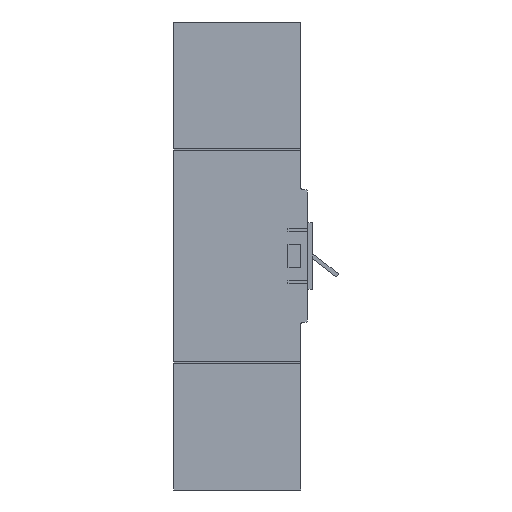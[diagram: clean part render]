
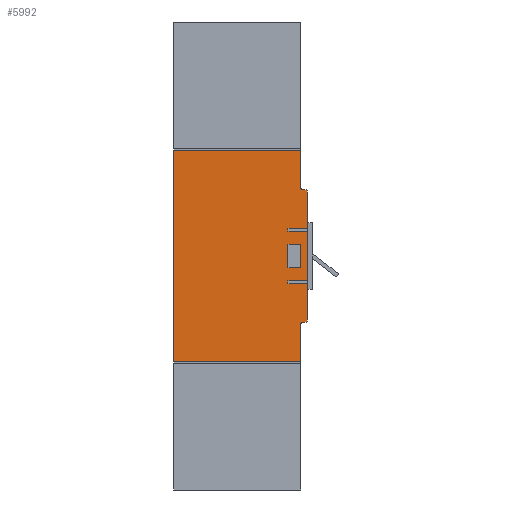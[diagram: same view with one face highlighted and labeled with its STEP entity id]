
A CAD part, left-side view. The second image highlights one B-rep face of the part: STEP entity #5992.
In plain terms, the highlighted planar face has unit normal (-1, 0, 0).
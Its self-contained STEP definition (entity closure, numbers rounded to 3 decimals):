
#169=CIRCLE('',#6319,1.);
#170=CIRCLE('',#6320,1.);
#171=CIRCLE('',#6321,1.);
#172=CIRCLE('',#6322,1.);
#315=FACE_BOUND('',#995,.T.);
#653=FACE_OUTER_BOUND('',#994,.T.);
#994=EDGE_LOOP('',(#5293,#5294,#5295,#5296,#5297,#5298,#5299,#5300,#5301,
#5302,#5303,#5304,#5305,#5306,#5307,#5308,#5309,#5310,#5311,#5312));
#995=EDGE_LOOP('',(#5313,#5314,#5315,#5316));
#1020=LINE('',#7701,#1689);
#1024=LINE('',#7709,#1693);
#1027=LINE('',#7715,#1696);
#1031=LINE('',#7724,#1700);
#1035=LINE('',#7732,#1704);
#1038=LINE('',#7738,#1707);
#1042=LINE('',#7747,#1711);
#1046=LINE('',#7755,#1715);
#1049=LINE('',#7761,#1718);
#1052=LINE('',#7766,#1721);
#1054=LINE('',#7771,#1723);
#1066=LINE('',#7794,#1735);
#1067=LINE('',#7795,#1736);
#1271=LINE('',#8455,#1940);
#1643=LINE('',#10154,#2312);
#1650=LINE('',#10168,#2319);
#1655=LINE('',#10188,#2324);
#1656=LINE('',#10191,#2325);
#1657=LINE('',#10193,#2326);
#1658=LINE('',#10197,#2327);
#1689=VECTOR('',#6358,15.);
#1693=VECTOR('',#6364,2.);
#1696=VECTOR('',#6369,15.);
#1700=VECTOR('',#6377,15.);
#1704=VECTOR('',#6383,2.);
#1707=VECTOR('',#6388,15.);
#1711=VECTOR('',#6396,10.);
#1715=VECTOR('',#6402,18.4);
#1718=VECTOR('',#6407,10.);
#1721=VECTOR('',#6412,18.4);
#1723=VECTOR('',#6418,28.8);
#1735=VECTOR('',#6430,28.8);
#1736=VECTOR('',#6431,38.4);
#1940=VECTOR('',#6719,163.);
#2312=VECTOR('',#7559,98.);
#2319=VECTOR('',#7576,98.);
#2324=VECTOR('',#7595,3.);
#2325=VECTOR('',#7598,29.5);
#2326=VECTOR('',#7599,29.5);
#2327=VECTOR('',#7602,3.);
#2358=VERTEX_POINT('',#7699);
#2359=VERTEX_POINT('',#7700);
#2362=VERTEX_POINT('',#7708);
#2364=VERTEX_POINT('',#7714);
#2366=VERTEX_POINT('',#7722);
#2367=VERTEX_POINT('',#7723);
#2370=VERTEX_POINT('',#7731);
#2372=VERTEX_POINT('',#7737);
#2374=VERTEX_POINT('',#7745);
#2375=VERTEX_POINT('',#7746);
#2378=VERTEX_POINT('',#7754);
#2380=VERTEX_POINT('',#7760);
#2382=VERTEX_POINT('',#7770);
#2393=VERTEX_POINT('',#7792);
#2626=VERTEX_POINT('',#8452);
#2627=VERTEX_POINT('',#8454);
#2893=VERTEX_POINT('',#10152);
#2895=VERTEX_POINT('',#10166);
#2902=VERTEX_POINT('',#10185);
#2903=VERTEX_POINT('',#10187);
#2904=VERTEX_POINT('',#10189);
#2905=VERTEX_POINT('',#10192);
#2906=VERTEX_POINT('',#10194);
#2907=VERTEX_POINT('',#10196);
#2928=EDGE_CURVE('',#2358,#2359,#1020,.T.);
#2932=EDGE_CURVE('',#2362,#2358,#1024,.T.);
#2935=EDGE_CURVE('',#2364,#2362,#1027,.T.);
#2939=EDGE_CURVE('',#2366,#2367,#1031,.T.);
#2943=EDGE_CURVE('',#2370,#2366,#1035,.T.);
#2946=EDGE_CURVE('',#2372,#2370,#1038,.T.);
#2950=EDGE_CURVE('',#2374,#2375,#1042,.T.);
#2954=EDGE_CURVE('',#2378,#2374,#1046,.T.);
#2957=EDGE_CURVE('',#2380,#2378,#1049,.T.);
#2960=EDGE_CURVE('',#2375,#2380,#1052,.T.);
#2962=EDGE_CURVE('',#2364,#2382,#1054,.T.);
#2974=EDGE_CURVE('',#2393,#2367,#1066,.T.);
#2975=EDGE_CURVE('',#2372,#2359,#1067,.T.);
#3235=EDGE_CURVE('',#2626,#2627,#1271,.T.);
#3717=EDGE_CURVE('',#2626,#2893,#1643,.T.);
#3724=EDGE_CURVE('',#2895,#2627,#1650,.T.);
#3733=EDGE_CURVE('',#2902,#2393,#169,.T.);
#3734=EDGE_CURVE('',#2903,#2902,#1655,.T.);
#3735=EDGE_CURVE('',#2904,#2903,#170,.T.);
#3736=EDGE_CURVE('',#2895,#2904,#1656,.T.);
#3737=EDGE_CURVE('',#2905,#2893,#1657,.T.);
#3738=EDGE_CURVE('',#2906,#2905,#171,.T.);
#3739=EDGE_CURVE('',#2907,#2906,#1658,.T.);
#3740=EDGE_CURVE('',#2382,#2907,#172,.T.);
#5293=ORIENTED_EDGE('',*,*,#2928,.T.);
#5294=ORIENTED_EDGE('',*,*,#2975,.F.);
#5295=ORIENTED_EDGE('',*,*,#2946,.T.);
#5296=ORIENTED_EDGE('',*,*,#2943,.T.);
#5297=ORIENTED_EDGE('',*,*,#2939,.T.);
#5298=ORIENTED_EDGE('',*,*,#2974,.F.);
#5299=ORIENTED_EDGE('',*,*,#3733,.F.);
#5300=ORIENTED_EDGE('',*,*,#3734,.F.);
#5301=ORIENTED_EDGE('',*,*,#3735,.F.);
#5302=ORIENTED_EDGE('',*,*,#3736,.F.);
#5303=ORIENTED_EDGE('',*,*,#3724,.T.);
#5304=ORIENTED_EDGE('',*,*,#3235,.F.);
#5305=ORIENTED_EDGE('',*,*,#3717,.T.);
#5306=ORIENTED_EDGE('',*,*,#3737,.F.);
#5307=ORIENTED_EDGE('',*,*,#3738,.F.);
#5308=ORIENTED_EDGE('',*,*,#3739,.F.);
#5309=ORIENTED_EDGE('',*,*,#3740,.F.);
#5310=ORIENTED_EDGE('',*,*,#2962,.F.);
#5311=ORIENTED_EDGE('',*,*,#2935,.T.);
#5312=ORIENTED_EDGE('',*,*,#2932,.T.);
#5313=ORIENTED_EDGE('',*,*,#2950,.T.);
#5314=ORIENTED_EDGE('',*,*,#2960,.T.);
#5315=ORIENTED_EDGE('',*,*,#2957,.T.);
#5316=ORIENTED_EDGE('',*,*,#2954,.T.);
#5687=PLANE('',#6318);
#5992=ADVANCED_FACE('',(#653,#315),#5687,.F.);
#6318=AXIS2_PLACEMENT_3D('',#10184,#7591,#7592);
#6319=AXIS2_PLACEMENT_3D('',#10186,#7593,#7594);
#6320=AXIS2_PLACEMENT_3D('',#10190,#7596,#7597);
#6321=AXIS2_PLACEMENT_3D('',#10195,#7600,#7601);
#6322=AXIS2_PLACEMENT_3D('',#10198,#7603,#7604);
#6358=DIRECTION('',(0.,-1.,0.));
#6364=DIRECTION('',(0.,0.,1.));
#6369=DIRECTION('',(0.,1.,0.));
#6377=DIRECTION('',(0.,-1.,0.));
#6383=DIRECTION('',(0.,0.,1.));
#6388=DIRECTION('',(0.,1.,0.));
#6396=DIRECTION('',(0.,-1.,0.));
#6402=DIRECTION('',(0.,0.,1.));
#6407=DIRECTION('',(0.,1.,0.));
#6412=DIRECTION('',(0.,0.,-1.));
#6418=DIRECTION('',(0.,0.,-1.));
#6430=DIRECTION('',(0.,0.,-1.));
#6431=DIRECTION('',(0.,0.,-1.));
#6719=DIRECTION('',(0.,0.,1.));
#7559=DIRECTION('',(0.,-1.,0.));
#7576=DIRECTION('',(0.,1.,0.));
#7591=DIRECTION('center_axis',(1.,0.,0.));
#7592=DIRECTION('ref_axis',(0.,0.,1.));
#7593=DIRECTION('center_axis',(1.,0.,0.));
#7594=DIRECTION('ref_axis',(0.,-0.707,0.707));
#7595=DIRECTION('',(0.,-1.,0.));
#7596=DIRECTION('center_axis',(-1.,0.,0.));
#7597=DIRECTION('ref_axis',(0.,0.707,-0.707));
#7598=DIRECTION('',(0.,0.,-1.));
#7599=DIRECTION('',(0.,0.,-1.));
#7600=DIRECTION('center_axis',(-1.,0.,0.));
#7601=DIRECTION('ref_axis',(0.,0.707,0.707));
#7602=DIRECTION('',(0.,1.,0.));
#7603=DIRECTION('center_axis',(1.,0.,0.));
#7604=DIRECTION('ref_axis',(0.,-0.707,-0.707));
#7699=CARTESIAN_POINT('',(0.,94.098,34.442));
#7700=CARTESIAN_POINT('',(0.,79.098,34.442));
#7701=CARTESIAN_POINT('',(0.,109.448,34.442));
#7708=CARTESIAN_POINT('',(0.,94.098,32.442));
#7709=CARTESIAN_POINT('',(0.,94.098,42.708));
#7714=CARTESIAN_POINT('',(0.,79.098,32.442));
#7715=CARTESIAN_POINT('',(0.,101.948,32.442));
#7722=CARTESIAN_POINT('',(0.,94.098,74.842));
#7723=CARTESIAN_POINT('',(0.,79.098,74.842));
#7724=CARTESIAN_POINT('',(0.,109.448,74.842));
#7731=CARTESIAN_POINT('',(0.,94.098,72.842));
#7732=CARTESIAN_POINT('',(0.,94.098,62.908));
#7737=CARTESIAN_POINT('',(0.,79.098,72.842));
#7738=CARTESIAN_POINT('',(0.,101.948,72.842));
#7745=CARTESIAN_POINT('',(0.,94.098,62.842));
#7746=CARTESIAN_POINT('',(0.,84.098,62.842));
#7747=CARTESIAN_POINT('',(0.,109.448,62.842));
#7754=CARTESIAN_POINT('',(0.,94.098,44.442));
#7755=CARTESIAN_POINT('',(0.,94.098,48.708));
#7760=CARTESIAN_POINT('',(0.,84.098,44.442));
#7761=CARTESIAN_POINT('',(0.,104.448,44.442));
#7766=CARTESIAN_POINT('',(0.,84.098,57.908));
#7770=CARTESIAN_POINT('',(0.,79.098,3.642));
#7771=CARTESIAN_POINT('',(0.,79.098,104.642));
#7792=CARTESIAN_POINT('',(0.,79.098,103.642));
#7794=CARTESIAN_POINT('',(0.,79.098,104.642));
#7795=CARTESIAN_POINT('',(0.,79.098,104.642));
#8452=CARTESIAN_POINT('',(0.,182.098,-27.858));
#8454=CARTESIAN_POINT('',(0.,182.098,135.142));
#8455=CARTESIAN_POINT('',(0.,182.098,-28.858));
#10152=CARTESIAN_POINT('',(0.,84.098,-27.858));
#10154=CARTESIAN_POINT('',(0.,153.448,-27.858));
#10166=CARTESIAN_POINT('',(0.,84.098,135.142));
#10168=CARTESIAN_POINT('',(0.,153.448,135.142));
#10184=CARTESIAN_POINT('Origin',(0.,124.798,52.975));
#10185=CARTESIAN_POINT('',(0.,80.098,104.642));
#10186=CARTESIAN_POINT('Origin',(0.,80.098,103.642));
#10187=CARTESIAN_POINT('',(0.,83.098,104.642));
#10188=CARTESIAN_POINT('',(0.,84.098,104.642));
#10189=CARTESIAN_POINT('',(0.,84.098,105.642));
#10190=CARTESIAN_POINT('Origin',(0.,83.098,105.642));
#10191=CARTESIAN_POINT('',(0.,84.098,136.142));
#10192=CARTESIAN_POINT('',(0.,84.098,1.642));
#10193=CARTESIAN_POINT('',(0.,84.098,2.642));
#10194=CARTESIAN_POINT('',(0.,83.098,2.642));
#10195=CARTESIAN_POINT('Origin',(0.,83.098,1.642));
#10196=CARTESIAN_POINT('',(0.,80.098,2.642));
#10197=CARTESIAN_POINT('',(0.,79.098,2.642));
#10198=CARTESIAN_POINT('Origin',(0.,80.098,3.642));
